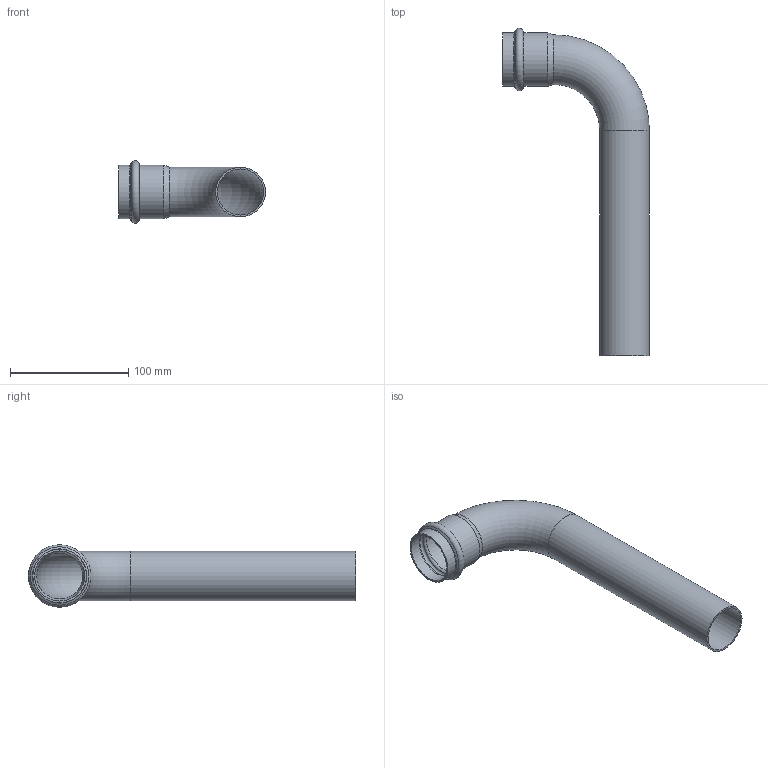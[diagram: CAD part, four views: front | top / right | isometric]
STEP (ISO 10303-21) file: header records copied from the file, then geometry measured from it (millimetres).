
FILE_DESCRIPTION((''),'2;1');
FILE_NAME('G:\Technics\CAD\Bauteile\042\69001L42(1).stp','2008-03-04T08:31:54',('herberg'),(''),'Autodesk Inventor 2008','Autodesk Inventor 2008','');
FILE_SCHEMA(('AUTOMOTIVE_DESIGN { 1 0 10303 214 1 1 1 1 }'));
Length unit declared in the file: millimetre
Products named in the file (1): 69001L42(1)
Bounding box: 124 x 276.4 x 52.8 mm (x, y, z)
Volume: 64159 mm3; surface area: 85942.4 mm2
Topology: 1 solids, 1 shells, 22 faces, 48 edges, 28 vertices
Faces by surface type: cylinder 8, torus 4, cone 4, bspline 4, plane 2
Full cylindrical faces by diameter (mm): 39 x2, 42 x2, 42.3 x2, 45.3 x2
Entity records: 634 total; most frequent: CARTESIAN_POINT 243, DIRECTION 82, ORIENTED_EDGE 44, EDGE_LOOP 44, AXIS2_PLACEMENT_3D 41, VERTEX_POINT 22, CIRCLE 22, EDGE_CURVE 22
